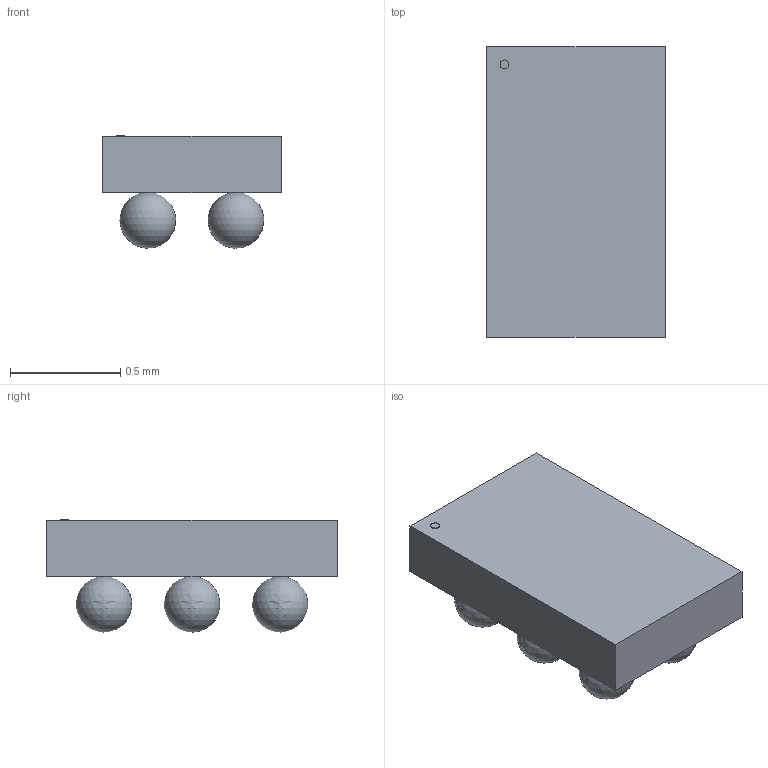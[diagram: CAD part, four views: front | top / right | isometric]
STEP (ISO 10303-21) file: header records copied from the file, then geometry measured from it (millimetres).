
FILE_DESCRIPTION(('STEP AP214'),'1');
FILE_NAME('DSBGA6_YBG_TEX','2025-01-31T12:55:55',(''),(''),'','','');
FILE_SCHEMA(('AUTOMOTIVE_DESIGN'));
Length unit declared in the file: millimetre
Products named in the file (1): product
Bounding box: 0.81 x 1.32 x 0.51 mm (x, y, z)
Volume: 0.3 mm3; surface area: 4.5 mm2
Topology: 8 solids, 8 shells, 15 faces, 33 edges, 22 vertices
Faces by surface type: plane 8, sphere 6, cylinder 1
Full cylindrical faces by diameter (mm): 0.041 x1
Entity records: 427 total; most frequent: DIRECTION 50, CARTESIAN_POINT 29, ORIENTED_EDGE 28, AXIS2_PLACEMENT_3D 19, PRESENTATION_STYLE_ASSIGNMENT 17, SURFACE_STYLE_USAGE 17, SURFACE_SIDE_STYLE 17, SURFACE_STYLE_FILL_AREA 17
